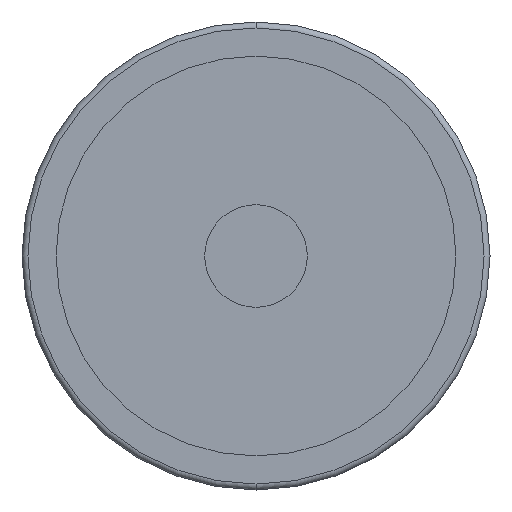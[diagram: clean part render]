
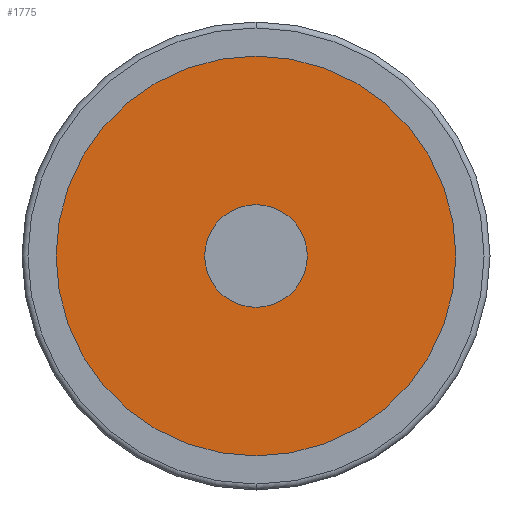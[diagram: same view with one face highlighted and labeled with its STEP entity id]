
A CAD part, front view. The second image highlights one B-rep face of the part: STEP entity #1775.
In plain terms, the highlighted planar face has unit normal (0, -1, 0).
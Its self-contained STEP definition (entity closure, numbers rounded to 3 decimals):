
#35 = CIRCLE ( 'NONE', #767, 8. ) ;
#236 = DIRECTION ( 'NONE',  ( 0., -1., 0. ) ) ;
#267 = AXIS2_PLACEMENT_3D ( 'NONE', #2351, #3004, #447 ) ;
#386 = DIRECTION ( 'NONE',  ( 1., 0., 0. ) ) ;
#447 = DIRECTION ( 'NONE',  ( 1., 0., 0. ) ) ;
#467 = FACE_OUTER_BOUND ( 'NONE', #1117, .T. ) ;
#546 = AXIS2_PLACEMENT_3D ( 'NONE', #2719, #236, #710 ) ;
#698 = CIRCLE ( 'NONE', #267, 34.25 ) ;
#710 = DIRECTION ( 'NONE',  ( 1., 0., 0. ) ) ;
#733 = DIRECTION ( 'NONE',  ( 0., -1., 0. ) ) ;
#767 = AXIS2_PLACEMENT_3D ( 'NONE', #2760, #733, #2727 ) ;
#877 = CARTESIAN_POINT ( 'NONE',  ( 0., 4.5, 0. ) ) ;
#882 = ORIENTED_EDGE ( 'NONE', *, *, #1749, .T. ) ;
#892 = ORIENTED_EDGE ( 'NONE', *, *, #1160, .T. ) ;
#932 = CARTESIAN_POINT ( 'NONE',  ( 0., 4.5, 0. ) ) ;
#940 = PLANE ( 'NONE',  #546 ) ;
#1078 = AXIS2_PLACEMENT_3D ( 'NONE', #877, #1878, #2869 ) ;
#1084 = AXIS2_PLACEMENT_3D ( 'NONE', #932, #1699, #386 ) ;
#1117 = EDGE_LOOP ( 'NONE', ( #892, #882 ) ) ;
#1160 = EDGE_CURVE ( 'NONE', #2303, #1629, #698, .T. ) ;
#1214 = VERTEX_POINT ( 'NONE', #1835 ) ;
#1347 = CIRCLE ( 'NONE', #1084, 8. ) ;
#1388 = CIRCLE ( 'NONE', #1078, 34.25 ) ;
#1466 = FACE_BOUND ( 'NONE', #2267, .T. ) ;
#1517 = CARTESIAN_POINT ( 'NONE',  ( 34.25, 4.5, 0. ) ) ;
#1629 = VERTEX_POINT ( 'NONE', #1517 ) ;
#1699 = DIRECTION ( 'NONE',  ( 0., -1., 0. ) ) ;
#1749 = EDGE_CURVE ( 'NONE', #1629, #2303, #1388, .T. ) ;
#1775 = ADVANCED_FACE ( 'NONE', ( #467, #1466 ), #940, .T. ) ;
#1835 = CARTESIAN_POINT ( 'NONE',  ( -8., 4.5, 0. ) ) ;
#1878 = DIRECTION ( 'NONE',  ( 0., -1., 0. ) ) ;
#1885 = CARTESIAN_POINT ( 'NONE',  ( -34.25, 4.5, 0. ) ) ;
#2000 = VERTEX_POINT ( 'NONE', #2321 ) ;
#2267 = EDGE_LOOP ( 'NONE', ( #3097, #2776 ) ) ;
#2303 = VERTEX_POINT ( 'NONE', #1885 ) ;
#2321 = CARTESIAN_POINT ( 'NONE',  ( 8., 4.5, 0. ) ) ;
#2351 = CARTESIAN_POINT ( 'NONE',  ( 0., 4.5, 0. ) ) ;
#2415 = EDGE_CURVE ( 'NONE', #1214, #2000, #1347, .T. ) ;
#2601 = EDGE_CURVE ( 'NONE', #2000, #1214, #35, .T. ) ;
#2719 = CARTESIAN_POINT ( 'NONE',  ( -34.25, 4.5, 0. ) ) ;
#2727 = DIRECTION ( 'NONE',  ( 1., 0., 0. ) ) ;
#2760 = CARTESIAN_POINT ( 'NONE',  ( 0., 4.5, 0. ) ) ;
#2776 = ORIENTED_EDGE ( 'NONE', *, *, #2415, .F. ) ;
#2869 = DIRECTION ( 'NONE',  ( 1., 0., 0. ) ) ;
#3004 = DIRECTION ( 'NONE',  ( 0., -1., 0. ) ) ;
#3097 = ORIENTED_EDGE ( 'NONE', *, *, #2601, .F. ) ;
